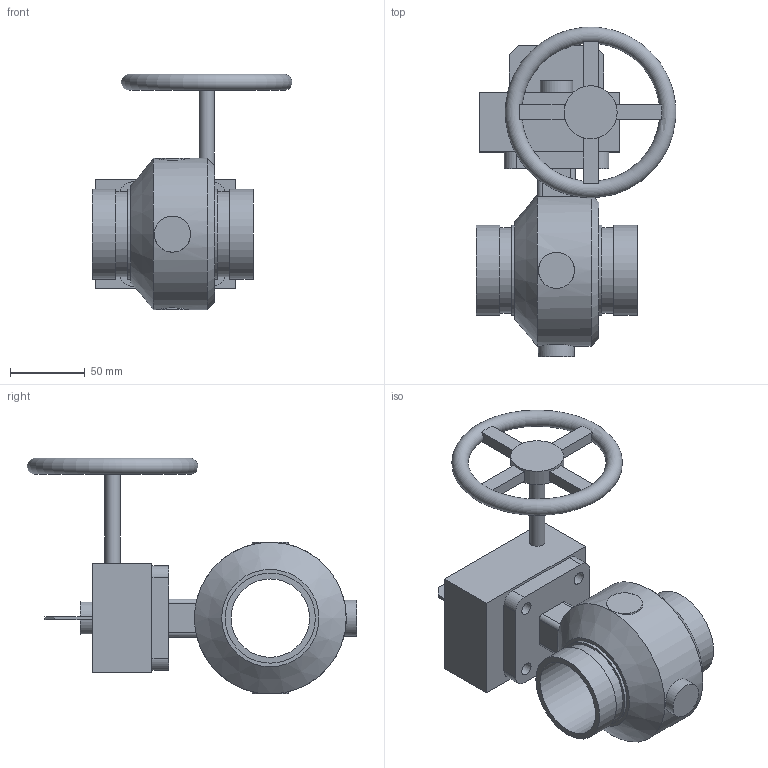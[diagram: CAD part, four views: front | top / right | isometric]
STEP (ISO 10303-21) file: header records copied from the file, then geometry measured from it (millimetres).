
FILE_DESCRIPTION(/* description */ ('VIC FP VALVE BUTTERFLY HP SERIES 766 (OGS)'),/* implementation_level */ '2;1');
FILE_NAME(/* name */ 'C:\Files for Export\766\Victaulic_EU_FP_Vlv Btfl HP_Series 766 (OGS)\Victaulic_EU_FP_Vlv Btfl HP_Series 766 (OGS)_2 (50).stp',/* time_stamp */ '2024-06-27T12:46:07+02:00',/* author */ ('cps_temp'),/* organization */ ('Victaulic'),/* preprocessor_version */ 'ST-DEVELOPER v18.1',/* originating_system */ 'Autodesk Inventor 2020',/* authorisation */ '');
FILE_SCHEMA (('AUTOMOTIVE_DESIGN { 1 0 10303 214 3 1 1 }'));
Length unit declared in the file: inch
Products named in the file (1): 766-02.0
Bounding box: 133.86 x 220.69 x 157.99 mm (x, y, z)
Volume: 715473.7 mm3; surface area: 115595.9 mm2
Topology: 1 solids, 2 shells, 93 faces, 239 edges, 162 vertices
Faces by surface type: plane 59, cylinder 31, cone 2, torus 1
Full cylindrical faces by diameter (mm): 8.128 x1, 8.636 x4, 10.16 x1, 24.13 x1, 35.56 x1, 52.502 x1, 55.118 x1, 57.15 x2, 60.325 x4, 101.6 x1
Entity records: 3299 total; most frequent: CARTESIAN_POINT 780, DIRECTION 499, ORIENTED_EDGE 478, EDGE_CURVE 239, AXIS2_PLACEMENT_3D 193, VERTEX_POINT 162, EDGE_LOOP 117, LINE 113
